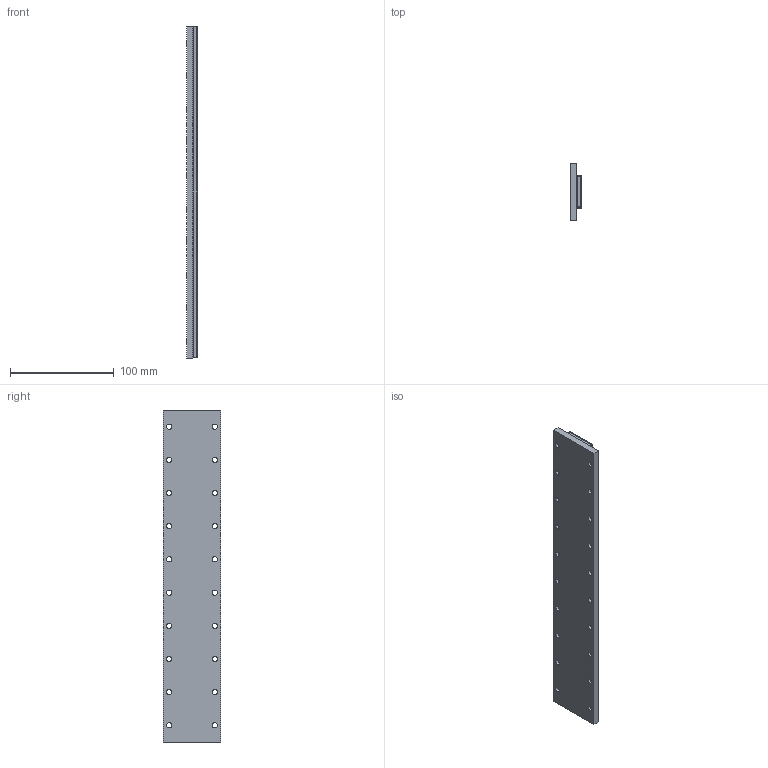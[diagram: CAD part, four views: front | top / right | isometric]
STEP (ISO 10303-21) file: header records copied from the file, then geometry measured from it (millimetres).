
FILE_DESCRIPTION (( 'STEP AP214' ), '1' );
FILE_NAME ('PIXM030-TL320-C.STEP', '2019-03-08T10:32:09', ( '' ), ( '' ), 'SwSTEP 2.0', 'SolidWorks 2016', '' );
FILE_SCHEMA (( 'AUTOMOTIVE_DESIGN' ));
Length unit declared in the file: millimetre
Products named in the file (4): 001SM030000001-CUSTOMER_TL320; 001SM030LXXX01_TL320; PIXM030-TL320-C; 001SM030LXXX02_TL320
Assembly tree (3 placements, depth 2):
  PIXM030-TL320-C
    001SM030LXXX01_TL320
    001SM030000001-CUSTOMER_TL320
    001SM030LXXX02_TL320
Bounding box: 10.3 x 55 x 320 mm (x, y, z)
Volume: 142660.4 mm3; surface area: 87331.9 mm2
Topology: 3 solids, 3 shells, 165 faces, 382 edges, 236 vertices
Faces by surface type: cylinder 96, plane 61, sphere 8
Entity records: 4894 total; most frequent: DIRECTION 908, CARTESIAN_POINT 781, ORIENTED_EDGE 748, EDGE_CURVE 374, AXIS2_PLACEMENT_3D 363, VERTEX_POINT 236, EDGE_LOOP 226, CIRCLE 192
